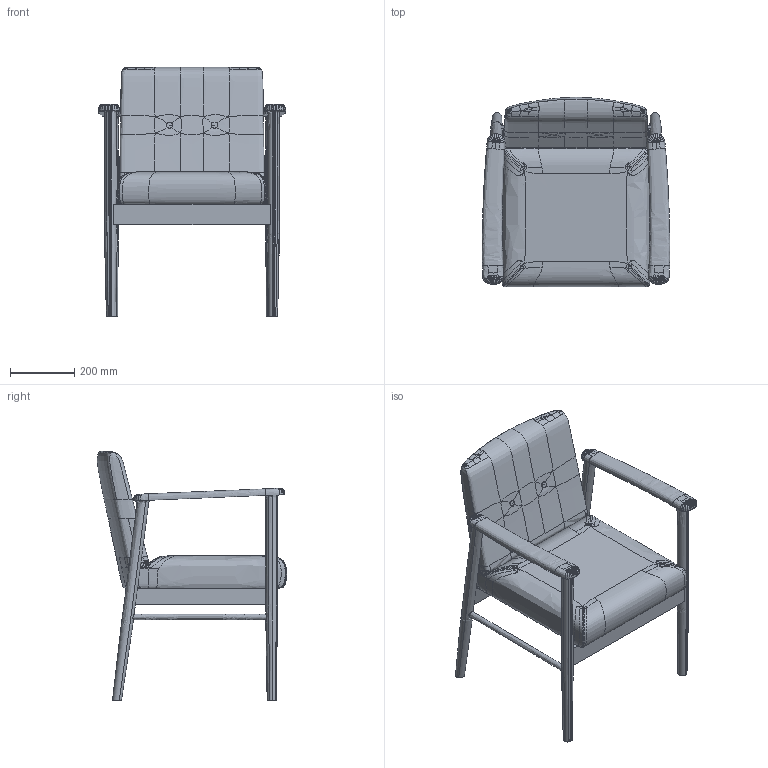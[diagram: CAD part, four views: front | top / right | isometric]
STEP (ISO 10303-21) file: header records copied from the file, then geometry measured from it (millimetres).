
FILE_DESCRIPTION(/* description */ (''),/* implementation_level */ '2;1');
FILE_NAME(/* name */ 'kinoshita_coccole_c125',/* time_stamp */ '2026-09-24T15:21:39+09:00',/* author */ (''),/* organization */ (''),/* preprocessor_version */ 'ST-DEVELOPER v16.5',/* originating_system */ '',/* authorisation */ '');
FILE_SCHEMA (('AUTOMOTIVE_DESIGN'));
Length unit declared in the file: millimetre
Products named in the file (1): Document
Bounding box: 582.7 x 588.95 x 775.16 mm (x, y, z)
Volume: 38805600.2 mm3; surface area: 1660870.9 mm2
Topology: 2 solids, 2 shells, 497 faces, 1251 edges, 756 vertices
Faces by surface type: bspline 491, plane 6
Entity records: 122107 total; most frequent: CARTESIAN_POINT 114290, ORIENTED_EDGE 2498, EDGE_CURVE 1249, B_SPLINE_CURVE_WITH_KNOTS 1249, VERTEX_POINT 756, EDGE_LOOP 507, ADVANCED_FACE 497, FACE_OUTER_BOUND 497
